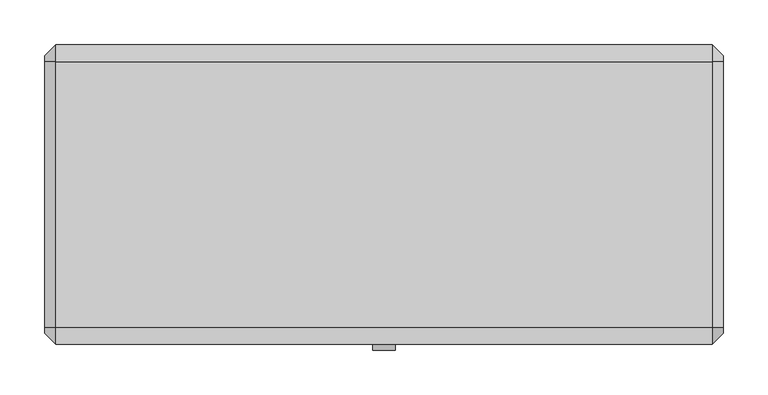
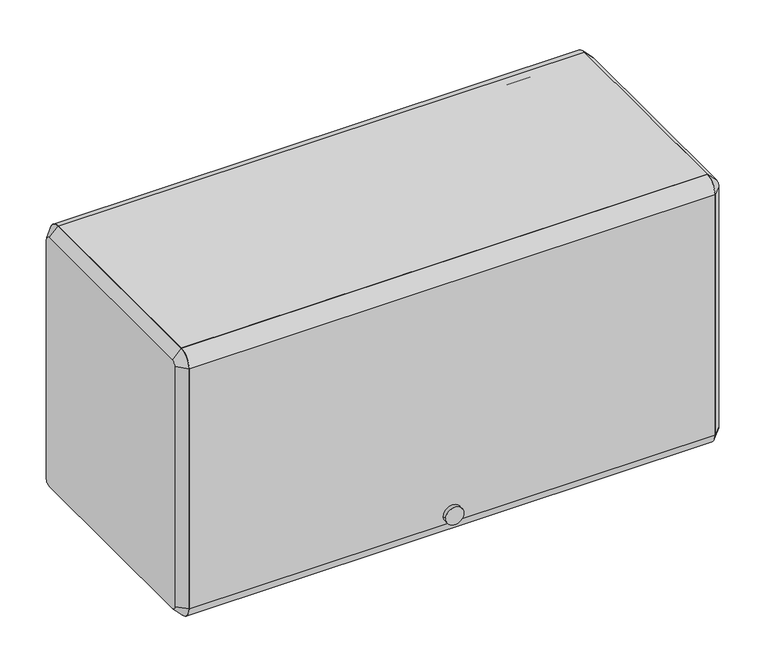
"""IFC4 building model written with IfcOpenShell, lengths in millimetres: furniture geometry."""

import ifcopenshell
import ifcopenshell.guid

model = None  # the IFC model being written
_history = None  # IfcOwnerHistory: only IFC2X3 demands one
_inside = {}  # id of a spatial element -> (the spatial element, [elements in it])
_under = {}  # id of a project, library or spatial element -> (it, [spatial elements below it])
_declared = {}  # id of a project -> (the project, [libraries it declares])
_typed = {}  # id of a type object -> (the type object, [elements of that type])
_made_of = {}  # id of a material, layer set ... -> (it, [elements and type objects made of it])


def new_model(schema):
    """Start an empty IFC model of exactly this schema.

    Asked for "IFC4X3", IfcOpenShell would pick the latest addendum, in which some entities
    have other attributes; the version numbers below select the first issue.
    IFC2X3 requires an IfcOwnerHistory on every rooted entity: one is made here for all.
    """
    global model, _history
    if schema == "IFC4X3":
        model = ifcopenshell.file(schema_version=(4, 3, 0, 0))
    else:
        model = ifcopenshell.file(schema=schema)
    _inside.clear()
    _under.clear()
    _declared.clear()
    _typed.clear()
    _made_of.clear()
    _history = None
    if model.schema == "IFC2X3":
        org = make("IfcOrganization", Name="unknown")
        user = make(
            "IfcPersonAndOrganization",
            ThePerson=make("IfcPerson", FamilyName="unknown"),
            TheOrganization=org,
        )
        app = make(
            "IfcApplication",
            ApplicationDeveloper=org,
            Version="unknown",
            ApplicationFullName="unknown",
            ApplicationIdentifier="unknown",
        )
        _history = make(
            "IfcOwnerHistory",
            OwningUser=user,
            OwningApplication=app,
            ChangeAction="ADDED",
            CreationDate=0,
        )
    return model


def make(cls, **values):
    """One entity of the class cls with the attributes given. An attribute that is None is left unset."""
    return model.create_entity(
        cls, **{name: value for name, value in values.items() if value is not None}
    )


def rooted(cls, **values):
    """An entity with a GlobalId (a new one), such as an element, a storey or a relation."""
    return make(cls, GlobalId=ifcopenshell.guid.new(), OwnerHistory=_history, **values)


def si_unit(unit_type, name, prefix=None):
    """IfcSIUnit, for example si_unit("LENGTHUNIT", "METRE", prefix="MILLI")."""
    return make("IfcSIUnit", UnitType=unit_type, Prefix=prefix, Name=name)


def assignment(units):
    """IfcUnitAssignment: the units of a project."""
    return None if units is None else make("IfcUnitAssignment", Units=units)


def point(xyz):
    """IfcCartesianPoint."""
    return None if xyz is None else make("IfcCartesianPoint", Coordinates=xyz)


def direction(xyz):
    """IfcDirection."""
    return None if xyz is None else make("IfcDirection", DirectionRatios=xyz)


def frame(location, z_axis=None, x_axis=None):
    """IfcAxis2Placement3D, a coordinate frame: its origin and axes. An axis left out is left unset."""
    return make(
        "IfcAxis2Placement3D",
        Location=point(location),
        Axis=direction(z_axis),
        RefDirection=direction(x_axis),
    )


def frame_2d(location, x_axis=None):
    """IfcAxis2Placement2D, a coordinate frame in the plane: its origin and x axis."""
    return make(
        "IfcAxis2Placement2D", Location=point(location), RefDirection=direction(x_axis)
    )


def origin():
    """The frame at (0, 0, 0) with its axes left unset."""
    return frame((0.0, 0.0, 0.0))


def place(relative_to, where):
    """IfcLocalPlacement: puts the frame where relative to a parent placement (None: the world)."""
    return make(
        "IfcLocalPlacement", PlacementRelTo=relative_to, RelativePlacement=where
    )


def context(
    kind, dimensions, precision=None, world=None, true_north=None, identifier=None
):
    """IfcGeometricRepresentationContext, for example the 3D "Model" context."""
    return make(
        "IfcGeometricRepresentationContext",
        ContextIdentifier=identifier,
        ContextType=kind,
        CoordinateSpaceDimension=dimensions,
        Precision=precision,
        WorldCoordinateSystem=world,
        TrueNorth=true_north,
    )


def project(units=None, contexts=None):
    """IfcProject with its units and contexts."""
    return rooted(
        "IfcProject",
        Name="project",
        RepresentationContexts=contexts,
        UnitsInContext=assignment(units),
    )


def spatial(cls, under=None, at=None, **own):
    """A site, building, storey or space (cls), placed at a placement, below another one or the project."""
    s = rooted(cls, ObjectPlacement=at, **own)
    if under is not None:
        _under.setdefault(under.id(), (under, []))[1].append(s)
    return s


def polyline(points):
    """IfcPolyline through the points."""
    return make("IfcPolyline", Points=[point(p) for p in points])


def circle_curve(where, radius):
    """IfcCircle in the frame where."""
    return make("IfcCircle", Position=where, Radius=radius)


def trimmed(basis, trim1, trim2, sense, master):
    """IfcTrimmedCurve: the piece of a basis curve between two trims."""
    return make(
        "IfcTrimmedCurve",
        BasisCurve=basis,
        Trim1=trim1,
        Trim2=trim2,
        SenseAgreement=sense,
        MasterRepresentation=master,
    )


def segment(curve, same_sense, transition):
    """IfcCompositeCurveSegment."""
    return make(
        "IfcCompositeCurveSegment",
        Transition=transition,
        SameSense=same_sense,
        ParentCurve=curve,
    )


def composite_curve(segments, self_intersect=None):
    """IfcCompositeCurve: segments joined end to end."""
    return make("IfcCompositeCurve", Segments=segments, SelfIntersect=self_intersect)


def outline(outer, holes=None, kind="AREA"):
    """IfcArbitraryClosedProfileDef: a profile drawn as a closed curve; with holes, ...WithVoids."""
    if holes is None:
        return make("IfcArbitraryClosedProfileDef", ProfileType=kind, OuterCurve=outer)
    return make(
        "IfcArbitraryProfileDefWithVoids",
        ProfileType=kind,
        OuterCurve=outer,
        InnerCurves=holes,
    )


def extrude(swept, where, along, depth):
    """IfcExtrudedAreaSolid: the profile swept, set in the frame where, extruded along a direction by depth."""
    return make(
        "IfcExtrudedAreaSolid",
        SweptArea=swept,
        Position=where,
        ExtrudedDirection=direction(along),
        Depth=depth,
    )


def shape(context_of_items, identifier, shape_type, items):
    """IfcShapeRepresentation: the items that make up one representation, for example the "Body"."""
    return make(
        "IfcShapeRepresentation",
        ContextOfItems=context_of_items,
        RepresentationIdentifier=identifier,
        RepresentationType=shape_type,
        Items=items,
    )


def source(mapping_origin, context_of_items, identifier, shape_type, items):
    """IfcRepresentationMap: a shape defined once, which mapped items show again and again."""
    return make(
        "IfcRepresentationMap",
        MappingOrigin=mapping_origin,
        MappedRepresentation=shape(context_of_items, identifier, shape_type, items),
    )


def transform(
    local_origin,
    x_axis=None,
    y_axis=None,
    z_axis=None,
    scale=None,
    scale2=None,
    scale3=None,
    uniform=True,
):
    """IfcCartesianTransformationOperator3D, or its non-uniform kind. x_axis, y_axis, z_axis: its Axis1, 2, 3."""
    if uniform:
        return make(
            "IfcCartesianTransformationOperator3D",
            Axis1=direction(x_axis),
            Axis2=direction(y_axis),
            LocalOrigin=point(local_origin),
            Scale=scale,
            Axis3=direction(z_axis),
        )
    return make(
        "IfcCartesianTransformationOperator3DnonUniform",
        Axis1=direction(x_axis),
        Axis2=direction(y_axis),
        LocalOrigin=point(local_origin),
        Scale=scale,
        Axis3=direction(z_axis),
        Scale2=scale2,
        Scale3=scale3,
    )


def mapped(mapping_source, mapping_target):
    """IfcMappedItem: shows the shape of a source again, moved by a transform."""
    return make(
        "IfcMappedItem", MappingSource=mapping_source, MappingTarget=mapping_target
    )


def made_of(thing, what):
    """Note that an element or type object is made of a material, layer set ...; save() writes the relation."""
    if what is not None:
        _made_of.setdefault(what.id(), (what, []))[1].append(thing)
    return thing


def element(
    cls,
    number,
    at=None,
    inside=None,
    cuts=None,
    type_object=None,
    material=None,
    context=None,
    identifier="Body",
    shape_type=None,
    held_by="IfcProductDefinitionShape",
    body=None,
    shapes=None,
    **own,
):
    """One element of the class cls, such as IfcWall. Its Tag is "e" and its number.

    at: its placement. inside: the storey or other place that contains it. cuts: it is an
    opening in that element (IfcRelVoidsElement). A single representation is given by context,
    identifier, shape_type and body (its items); several are given by shapes. held_by: the class
    of the entity that holds the representations. save() writes the other relations.
    """
    e = rooted(cls, Tag="e%d" % number, ObjectPlacement=at, **own)
    if body is not None:
        shapes = [shape(context, identifier, shape_type, body)]
    if shapes is not None:
        e.Representation = make(held_by, Representations=shapes)
    if inside is not None:
        _inside.setdefault(inside.id(), (inside, []))[1].append(e)
    if cuts is not None:
        rooted(
            "IfcRelVoidsElement", RelatingBuildingElement=cuts, RelatedOpeningElement=e
        )
    if type_object is not None:
        _typed.setdefault(type_object.id(), (type_object, []))[1].append(e)
    return made_of(e, material)


def aggregate(whole, parts):
    """IfcRelAggregates: a whole, such as a stair, and the parts it consists of."""
    return rooted("IfcRelAggregates", RelatingObject=whole, RelatedObjects=parts)


def save(model, path):
    """Write the relations noted so far, then the file.

    IfcRelAggregates (storeys below a building ...), IfcRelContainedInSpatialStructure (elements
    in a storey), IfcRelDefinesByType, IfcRelAssociatesMaterial and IfcRelDeclares: one each for
    every whole, place, type object, material and project.
    """
    for whole, parts in _under.values():
        aggregate(whole, parts)
    for where, things in _inside.values():
        rooted(
            "IfcRelContainedInSpatialStructure",
            RelatedElements=things,
            RelatingStructure=where,
        )
    for kind, things in _typed.values():
        rooted("IfcRelDefinesByType", RelatedObjects=things, RelatingType=kind)
    for what, things in _made_of.values():
        rooted("IfcRelAssociatesMaterial", RelatedObjects=things, RelatingMaterial=what)
    for by, libraries in _declared.values():
        rooted("IfcRelDeclares", RelatingContext=by, RelatedDefinitions=libraries)
    model.write(path)


def plane_surface(at):
    """IfcPlane: the flat surface through the origin of the frame at, square to its z axis."""
    return make("IfcPlane", Position=at)


def revolved_surface(curve, axis_point, axis_direction):
    """IfcSurfaceOfRevolution: the curve turned about the line through axis_point along axis_direction."""
    return make(
        "IfcSurfaceOfRevolution",
        SweptCurve=make("IfcArbitraryOpenProfileDef", ProfileType="CURVE", Curve=curve),
        AxisPosition=make("IfcAxis1Placement", Location=point(axis_point), Axis=direction(axis_direction)),
    )


def advanced_brep(points, edges, surfaces, faces):
    """IfcAdvancedBrep: a solid bounded by faces that lie on surfaces and meet in shared edges.

    An edge is (start, end): straight between two places in points (the first is 0);
    or (start, end, curve); or (start, end, curve, False) where it runs against its curve.
    A face is (place in surfaces, loops), or (place, loops, False) where it looks against
    its surface's normal. A loop lists edges by number (the first is 1), with a minus sign
    where the edge is run from its end to its start. The first loop is the outer one.
    """
    corners = [point(p) for p in points]
    vertices = [make("IfcVertexPoint", VertexGeometry=c) for c in corners]
    made = []
    for start, end, *more in edges:
        made.append(
            make(
                "IfcEdgeCurve",
                EdgeStart=vertices[start],
                EdgeEnd=vertices[end],
                EdgeGeometry=more[0] if more else make("IfcPolyline", Points=[corners[start], corners[end]]),
                SameSense=more[1] if len(more) > 1 else True,
            )
        )
    hull = []
    for where, loops, *sense in faces:
        bounds = []
        for j, loop in enumerate(loops):
            ring = [make("IfcOrientedEdge", EdgeElement=made[abs(k) - 1], Orientation=k > 0) for k in loop]
            bounds.append(
                make(
                    "IfcFaceOuterBound" if j == 0 else "IfcFaceBound",
                    Bound=make("IfcEdgeLoop", EdgeList=ring),
                    Orientation=True,
                )
            )
        hull.append(make("IfcAdvancedFace", Bounds=bounds, FaceSurface=surfaces[where], SameSense=sense[0] if sense else True))
    return make("IfcAdvancedBrep", Outer=make("IfcClosedShell", CfsFaces=hull))


def furniture_e325dd1e(model_context):
    return source(origin(), model_context, "Body", "SolidModel", [
        extrude(outline(composite_curve([segment(polyline([(-136.525, 1689.1), (-136.525, 1701.8), (161.925, 1701.8)]), True, "CONTINUOUS"), segment(trimmed(circle_curve(frame_2d((161.925, 1682.75)), 19.05), [point((161.925, 1701.8))], [point((180.975, 1682.75))], False, "CARTESIAN"), True, "CONTINUOUS"), segment(polyline([(180.975, 1682.75), (168.275, 1682.75)]), True, "CONTINUOUS"), segment(trimmed(circle_curve(frame_2d((161.925, 1682.75)), 6.35), [point((168.275, 1682.75))], [point((161.925, 1689.1))], True, "CARTESIAN"), True, "CONTINUOUS"), segment(polyline([(161.925, 1689.1), (-136.525, 1689.1)]), True, "CONTINUOUS")], self_intersect=False)), frame((-368.3, 0.0, 0.0), z_axis=(1.0, 0.0, 0.0), x_axis=(0.0, 1.0, 0.0)), (0.0, 0.0, 1.0), 736.6),
        extrude(outline(composite_curve([segment(trimmed(circle_curve(frame_2d((-136.525, 1682.75)), 19.05), [point((-155.575, 1682.75))], [point((-136.525, 1701.8))], False, "CARTESIAN"), True, "CONTINUOUS"), segment(polyline([(-136.525, 1701.8), (-136.525, 1689.1)]), True, "CONTINUOUS"), segment(trimmed(circle_curve(frame_2d((-136.525, 1682.75)), 6.35), [point((-136.525, 1689.1))], [point((-142.875, 1682.75))], True, "CARTESIAN"), True, "CONTINUOUS"), segment(polyline([(-142.875, 1682.75), (-142.875, 1327.15)]), True, "CONTINUOUS"), segment(trimmed(circle_curve(frame_2d((-136.525, 1327.15)), 6.35), [point((-142.875, 1327.15))], [point((-136.525, 1320.8))], True, "CARTESIAN"), True, "CONTINUOUS"), segment(polyline([(-136.525, 1320.8), (-136.525, 1308.1)]), True, "CONTINUOUS"), segment(trimmed(circle_curve(frame_2d((-136.525, 1327.15)), 19.05), [point((-136.525, 1308.1))], [point((-155.575, 1327.15))], False, "CARTESIAN"), True, "CONTINUOUS"), segment(polyline([(-155.575, 1327.15), (-155.575, 1682.75)]), True, "CONTINUOUS")], self_intersect=False)), frame((-368.3, 0.0, 0.0), z_axis=(1.0, 0.0, 0.0), x_axis=(0.0, 1.0, 0.0)), (0.0, 0.0, 1.0), 736.6),
        extrude(outline(composite_curve([segment(trimmed(circle_curve(frame_2d((1339.8118906, 0.0201199)), 12.7253951), [point((1339.8118906, 12.745515))], [point((1339.8118906, -12.7052752))], False, "CARTESIAN"), True, "CONTINUOUS"), segment(trimmed(circle_curve(frame_2d((1339.8118906, 0.0201199)), 12.7253951), [point((1339.8118906, -12.7052752))], [point((1339.8118906, 12.745515))], False, "CARTESIAN"), True, "CONTINUOUS")], self_intersect=False)), frame((0.0, -161.925, 0.0), z_axis=(0.0, 1.0, 0.0), x_axis=(0.0, 0.0, 1.0)), (0.0, 0.0, 1.0), 6.35),
        extrude(outline(polyline([(-136.525, 1346.2), (161.925, 1346.2), (161.925, 1384.3), (174.625, 1384.3), (174.625, 1381.125), (165.1, 1381.125), (165.1, 1343.025), (-133.35, 1343.025), (-133.35, 1323.975), (-136.525, 1323.975), (-136.525, 1346.2)])), frame((-368.3, 0.0, 0.0), z_axis=(1.0, 0.0, 0.0), x_axis=(0.0, 1.0, 0.0)), (0.0, 0.0, 1.0), 736.6),
        advanced_brep(
        [(381.0, 161.925, 1689.1), (381.0, -136.525, 1689.1), (381.0, -142.875, 1682.75), (381.0, -142.875, 1327.15), (381.0, -136.525, 1320.8), (381.0, 161.925, 1320.8), (381.0, 168.275, 1327.15), (381.0, 168.275, 1682.75), (368.3, 161.925, 1701.8), (368.3, 180.975, 1682.75), (368.3, 180.975, 1327.15), (368.3, 161.925, 1308.1), (368.3, -136.525, 1308.1), (368.3, -155.575, 1327.15), (368.3, -155.575, 1682.75), (368.3, -136.525, 1701.8)],
        [
            (0, 1),
            (1, 2, circle_curve(frame((381.0, -136.525, 1682.75), z_axis=(1.0, 6.493472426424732e-12, -6.586731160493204e-12), x_axis=(6.586694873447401e-12, 0.0, 1.0)), 6.35)),
            (2, 3),
            (3, 4, circle_curve(frame((381.0, -136.525, 1327.15), z_axis=(1.0, 3.3759661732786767e-12, 3.3892888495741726e-12), x_axis=(3.3760128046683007e-12, -1.0, 0.0)), 6.35)),
            (4, 5),
            (5, 6, circle_curve(frame((381.0, 161.925, 1327.15), z_axis=(1.0, 3.378630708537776e-12, -3.3892888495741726e-12), x_axis=(-3.38935859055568e-12, 0.0, -1.0)), 6.35)),
            (6, 7),
            (7, 0, circle_curve(frame((381.0, 161.925, 1682.75), z_axis=(1.0, 6.482814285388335e-12, 6.3948846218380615e-12), x_axis=(-6.482754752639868e-12, 1.0, 0.0)), 6.35)),
            (8, 9, circle_curve(frame((368.3, 161.925, 1682.75), z_axis=(-1.0, -6.482814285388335e-12, -6.3948846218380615e-12), x_axis=(-6.482754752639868e-12, 1.0, 0.0)), 19.05)),
            (9, 10),
            (10, 11, circle_curve(frame((368.3, 161.925, 1327.15), z_axis=(-1.0, -3.378630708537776e-12, 3.3892888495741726e-12), x_axis=(-3.38935859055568e-12, 0.0, -1.0)), 19.05)),
            (11, 12),
            (12, 13, circle_curve(frame((368.3, -136.525, 1327.15), z_axis=(-1.0, -3.3759661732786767e-12, -3.3892888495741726e-12), x_axis=(3.3760128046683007e-12, -1.0, 0.0)), 19.05)),
            (13, 14),
            (14, 15, circle_curve(frame((368.3, -136.525, 1682.75), z_axis=(-1.0, -6.493472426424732e-12, 6.586731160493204e-12), x_axis=(6.586694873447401e-12, 0.0, 1.0)), 19.05)),
            (15, 8),
            (15, 1),
            (0, 8),
            (14, 2),
            (13, 3),
            (12, 4),
            (11, 5),
            (10, 6),
            (9, 7),
        ],
        [
            plane_surface(frame((381.0, 12.7, 1504.95), z_axis=(1.0, 0.0, 0.0), x_axis=(0.0, -1.0, 0.0))),
            plane_surface(frame((368.3, 12.7, 1504.95), z_axis=(-1.0, 0.0, 0.0), x_axis=(0.0, -1.0, 0.0))),
            plane_surface(frame((368.3, 12.7, 1701.8), z_axis=(0.707106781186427, 0.0, 0.7071067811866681), x_axis=(0.0, -1.0, 0.0))),
            revolved_surface(polyline([(381.00000000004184, -136.525, 1689.099999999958), (368.3, -136.525, 1701.8)]), (387.35, -136.525, 1682.75), (-1.0, -6.493472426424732e-12, 6.586731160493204e-12)),
            plane_surface(frame((368.3, -155.575, 1504.95), z_axis=(0.7071067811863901, -0.7071067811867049, 0.0), x_axis=(0.0, 0.0, -1.0))),
            revolved_surface(polyline([(381.00000000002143, -142.87499999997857, 1327.15), (368.2999999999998, -155.57500000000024, 1327.15)]), (387.35, -136.525, 1327.15), (-1.0, -3.3759661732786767e-12, -3.3892888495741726e-12)),
            plane_surface(frame((368.3, 12.7, 1308.1), z_axis=(0.7071067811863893, 0.0, -0.7071067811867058), x_axis=(0.0, 1.0, 0.0))),
            revolved_surface(polyline([(381.0, 161.925, 1320.8), (368.29999999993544, 161.925, 1308.0999999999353)]), (387.35, 161.925, 1327.15), (-1.0, -3.378630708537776e-12, 3.3892888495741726e-12)),
            plane_surface(frame((368.3, 180.975, 1504.95), z_axis=(0.7071067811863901, 0.7071067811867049, 0.0), x_axis=(0.0, 0.0, 1.0))),
            revolved_surface(polyline([(381.0, 168.27500000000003, 1682.75), (368.2999999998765, 180.9750000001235, 1682.75)]), (387.35, 161.925, 1682.75), (-1.0, -6.482814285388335e-12, -6.3948846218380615e-12)),
        ],
        [
            (0, [[1, 2, 3, 4, 5, 6, 7, 8]]),
            (1, [[9, 10, 11, 12, 13, 14, 15, 16]]),
            (2, [[-16, 17, -1, 18]]),
            (3, [[-15, 19, -2, -17]]),
            (4, [[-14, 20, -3, -19]]),
            (5, [[-13, 21, -4, -20]]),
            (6, [[-12, 22, -5, -21]]),
            (7, [[-11, 23, -6, -22]]),
            (8, [[-10, 24, -7, -23]]),
            (9, [[-9, -18, -8, -24]]),
        ],
    ),
        advanced_brep(
        [(-381.0, -136.525, 1689.1), (-381.0, 161.925, 1689.1), (-381.0, 168.275, 1682.75), (-381.0, 168.275, 1327.15), (-381.0, 161.925, 1320.8), (-381.0, -136.525, 1320.8), (-381.0, -142.875, 1327.15), (-381.0, -142.875, 1682.75), (-368.3, -136.525, 1701.8), (-368.3, -155.575, 1682.75), (-368.3, -155.575, 1327.15), (-368.3, -136.525, 1308.1), (-368.3, 161.925, 1308.1), (-368.3, 180.975, 1327.15), (-368.3, 180.975, 1682.75), (-368.3, 161.925, 1701.8)],
        [
            (0, 1),
            (1, 2, circle_curve(frame((-381.0, 161.925, 1682.75), z_axis=(-1.0, 3.3653080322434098e-12, 3.453237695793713e-12), x_axis=(3.453261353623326e-12, 0.0, 1.0)), 6.35)),
            (2, 3),
            (3, 4, circle_curve(frame((-381.0, 161.925, 1327.15), z_axis=(-1.0, 0.0, 0.0), x_axis=(0.0, 1.0, 0.0)), 6.35)),
            (4, 5),
            (5, 6, circle_curve(frame((-381.0, -136.525, 1327.15), z_axis=(-1.0, 0.0, 0.0), x_axis=(0.0, 0.0, -1.0)), 6.35)),
            (6, 7),
            (7, 0, circle_curve(frame((-381.0, -136.525, 1682.75), z_axis=(-1.0, 3.3812952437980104e-12, -3.304023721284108e-12), x_axis=(-3.381351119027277e-12, -1.0, 0.0)), 6.35)),
            (8, 9, circle_curve(frame((-368.3, -136.525, 1682.75), z_axis=(1.0, -3.3812952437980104e-12, 3.304023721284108e-12), x_axis=(-3.381351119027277e-12, -1.0, 0.0)), 19.05)),
            (9, 10),
            (10, 11, circle_curve(frame((-368.3, -136.525, 1327.15), z_axis=(1.0, 0.0, 0.0), x_axis=(0.0, 0.0, -1.0)), 19.05)),
            (11, 12),
            (12, 13, circle_curve(frame((-368.3, 161.925, 1327.15), z_axis=(1.0, 0.0, 0.0), x_axis=(0.0, 1.0, 0.0)), 19.05)),
            (13, 14),
            (14, 15, circle_curve(frame((-368.3, 161.925, 1682.75), z_axis=(1.0, -3.3653080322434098e-12, -3.453237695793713e-12), x_axis=(3.453261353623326e-12, 0.0, 1.0)), 19.05)),
            (15, 8),
            (15, 1),
            (0, 8),
            (14, 2),
            (13, 3),
            (12, 4),
            (11, 5),
            (10, 6),
            (9, 7),
        ],
        [
            plane_surface(frame((-381.0, 12.7, 1504.95), z_axis=(-1.0, 0.0, 0.0), x_axis=(0.0, -1.0, 0.0))),
            plane_surface(frame((-368.3, 12.7, 1504.95), z_axis=(1.0, 0.0, 0.0), x_axis=(0.0, -1.0, 0.0))),
            plane_surface(frame((-368.3, 12.7, 1701.8), z_axis=(-0.7071067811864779, 0.0, 0.7071067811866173), x_axis=(0.0, 1.0, 0.0))),
            revolved_surface(polyline([(-381.0, 161.925, 1689.1), (-368.29999999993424, 161.925, 1701.8000000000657)]), (-387.35, 161.925, 1682.75), (1.0, -3.3653080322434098e-12, -3.453237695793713e-12)),
            plane_surface(frame((-368.3, 180.975, 1504.95), z_axis=(-0.7071067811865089, 0.7071067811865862, 0.0), x_axis=(0.0, 0.0, -1.0))),
            revolved_surface(polyline([(-381.0, 168.27500000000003, 1327.15), (-368.3, 180.975, 1327.15)]), (-387.35, 161.925, 1327.15), (1.0, 0.0, 0.0)),
            plane_surface(frame((-368.3, 12.7, 1308.1), z_axis=(-0.7071067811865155, 0.0, -0.7071067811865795), x_axis=(0.0, -1.0, 0.0))),
            revolved_surface(polyline([(-381.0, -136.525, 1320.8), (-368.3, -136.525, 1308.1)]), (-387.35, -136.525, 1327.15), (1.0, 0.0, 0.0)),
            plane_surface(frame((-368.3, -155.575, 1504.95), z_axis=(-0.7071067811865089, -0.7071067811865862, 0.0), x_axis=(0.0, 0.0, 1.0))),
            revolved_surface(polyline([(-381.0000000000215, -142.87499999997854, 1682.75), (-368.3, -155.575, 1682.75)]), (-387.35, -136.525, 1682.75), (1.0, -3.3812952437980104e-12, 3.304023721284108e-12)),
        ],
        [
            (0, [[1, 2, 3, 4, 5, 6, 7, 8]]),
            (1, [[9, 10, 11, 12, 13, 14, 15, 16]]),
            (2, [[-16, 17, -1, 18]]),
            (3, [[-15, 19, -2, -17]]),
            (4, [[-14, 20, -3, -19]]),
            (5, [[-13, 21, -4, -20]]),
            (6, [[-12, 22, -5, -21]]),
            (7, [[-11, 23, -6, -22]]),
            (8, [[-10, 24, -7, -23]]),
            (9, [[-9, -18, -8, -24]]),
        ],
    ),
    ])


if __name__ == "__main__":
    model = new_model("IFC4")
    model_context = context("Model", 3, world=origin())
    ifc_project = project(units=[si_unit("LENGTHUNIT", "METRE", prefix="MILLI")], contexts=[model_context])
    site = spatial("IfcSite", under=ifc_project)
    building = spatial("IfcBuilding", under=site)
    placement = place(None, origin())
    furniture_shape = furniture_e325dd1e(model_context)
    element("IfcFurniture", 1, ObjectType="HermanMiller_ActionOffice_A3352_B-StyleFlipperDoorUnit : 15 1/2\"H x 13\"D x 30\"W", at=placement, inside=building, context=model_context, shape_type="MappedRepresentation", body=[
        mapped(furniture_shape, transform((0.0, 0.0, 0.0), x_axis=(1.0, 0.0, 0.0), y_axis=(0.0, 1.0, 0.0), z_axis=(0.0, 0.0, 1.0))),
    ])
    save(model, "model.ifc")
